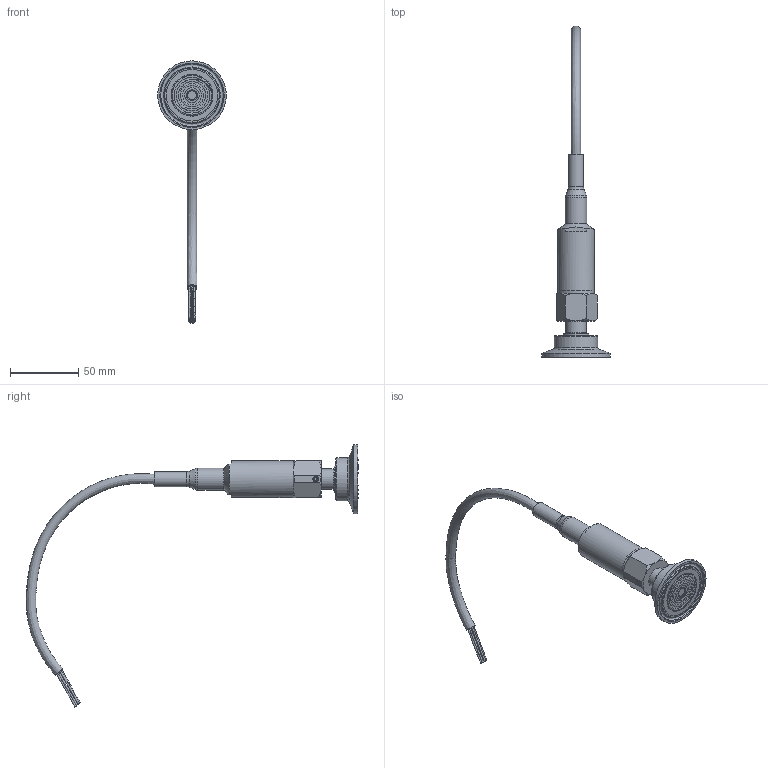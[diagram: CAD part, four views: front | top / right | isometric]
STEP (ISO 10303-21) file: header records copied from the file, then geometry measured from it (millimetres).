
FILE_DESCRIPTION(/* description */ (''),/* implementation_level */ '2;1');
FILE_NAME(/* name */ '40-000052.ipt.stp',/* time_stamp */ '2024-09-20T08:01:04-07:00',/* author */ ('phong'),/* organization */ (''),/* preprocessor_version */ 'ST-DEVELOPER v20',/* originating_system */ 'Autodesk Inventor 2024',/* authorisation */ '');
FILE_SCHEMA (('AUTOMOTIVE_DESIGN { 1 0 10303 214 3 1 1 }'));
Length unit declared in the file: inch
Products named in the file (1): 40-000052
Bounding box: 50.39 x 243.53 x 192.39 mm (x, y, z)
Volume: 50513.1 mm3; surface area: 31434.3 mm2
Topology: 2 solids, 7 shells, 223 faces, 471 edges, 292 vertices
Faces by surface type: plane 66, cylinder 61, cone 44, torus 37, bspline 13, sphere 2
Full cylindrical faces by diameter (mm): 0.66 x1, 2.381 x1, 2.388 x1, 3 x1, 3.5 x1, 3.961 x4, 4.134 x6, 7.315 x2, 7.493 x1, 7.595 x1, 7.722 x2, 7.976 x1, 8.026 x2, 10.554 x2, 10.986 x2, 11.074 x1, 11.862 x1, 13.17 x1, 13.335 x1, 15.088 x1, 15.989 x1, 19 x1, 19.05 x1, 20 x1, 23 x1, 23.1 x1, 23.917 x1, 25.908 x1, 26.861 x1, 31.75 x1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
Entity records: 8590 total; most frequent: CARTESIAN_POINT 3650, DIRECTION 1084, ORIENTED_EDGE 942, AXIS2_PLACEMENT_3D 485, EDGE_CURVE 471, VERTEX_POINT 292, CIRCLE 274, EDGE_LOOP 261
